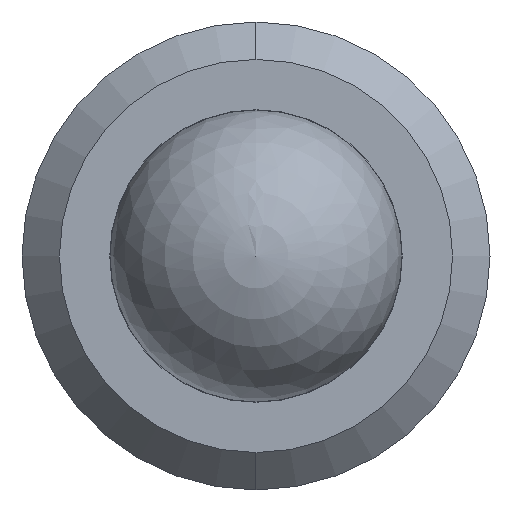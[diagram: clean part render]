
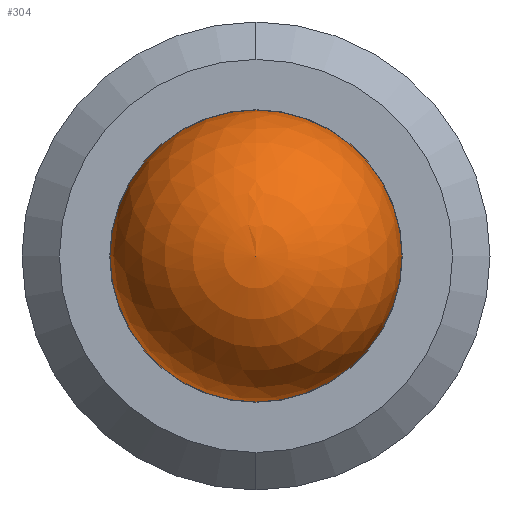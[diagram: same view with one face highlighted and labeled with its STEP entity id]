
A CAD part, left-side view. The second image highlights one B-rep face of the part: STEP entity #304.
In plain terms, the highlighted spherical face has radius 1.984 mm.
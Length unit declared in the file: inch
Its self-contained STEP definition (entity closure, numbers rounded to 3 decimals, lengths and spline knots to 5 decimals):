
#12 = EDGE_CURVE ( 'NONE', #132, #285, #628, .T. ) ;
#60 = DIRECTION ( 'NONE',  ( 0., 0., 1. ) ) ;
#102 = CIRCLE ( 'NONE', #354, 0.07813 ) ;
#113 = DIRECTION ( 'NONE',  ( -1., 0., 0. ) ) ;
#132 = VERTEX_POINT ( 'NONE', #545 ) ;
#133 = DIRECTION ( 'NONE',  ( 0., 0., 1. ) ) ;
#201 = CARTESIAN_POINT ( 'NONE',  ( 0., 0., 0. ) ) ;
#208 = EDGE_LOOP ( 'NONE', ( #465, #560 ) ) ;
#212 = SPHERICAL_SURFACE ( 'NONE', #278, 0.07813 ) ;
#247 = EDGE_CURVE ( 'NONE', #132, #285, #102, .T. ) ;
#278 = AXIS2_PLACEMENT_3D ( 'NONE', #201, #113, #60 ) ;
#285 = VERTEX_POINT ( 'NONE', #402 ) ;
#304 = ADVANCED_FACE ( 'NONE', ( #568 ), #212, .T. ) ;
#354 = AXIS2_PLACEMENT_3D ( 'NONE', #593, #601, #454 ) ;
#402 = CARTESIAN_POINT ( 'NONE',  ( 0., -0.07813, 0. ) ) ;
#454 = DIRECTION ( 'NONE',  ( 0., 0., -1. ) ) ;
#465 = ORIENTED_EDGE ( 'NONE', *, *, #247, .F. ) ;
#513 = AXIS2_PLACEMENT_3D ( 'NONE', #522, #524, #133 ) ;
#522 = CARTESIAN_POINT ( 'NONE',  ( 0., 0., 0. ) ) ;
#524 = DIRECTION ( 'NONE',  ( -1., 0., 0. ) ) ;
#545 = CARTESIAN_POINT ( 'NONE',  ( 0., 0.07813, 0. ) ) ;
#560 = ORIENTED_EDGE ( 'NONE', *, *, #12, .T. ) ;
#568 = FACE_OUTER_BOUND ( 'NONE', #208, .T. ) ;
#593 = CARTESIAN_POINT ( 'NONE',  ( 0., 0., 0. ) ) ;
#601 = DIRECTION ( 'NONE',  ( 1., 0., 0. ) ) ;
#628 = CIRCLE ( 'NONE', #513, 0.07813 ) ;
